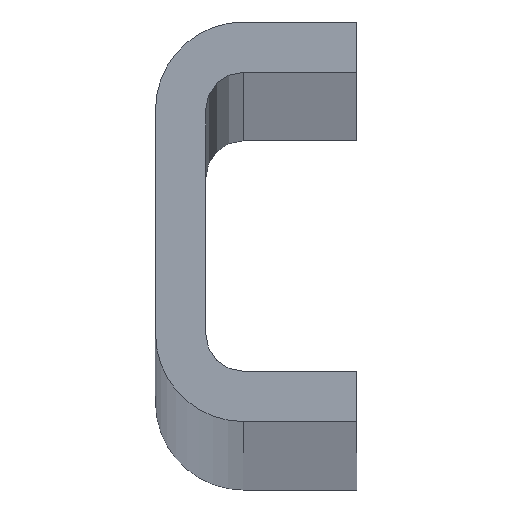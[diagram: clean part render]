
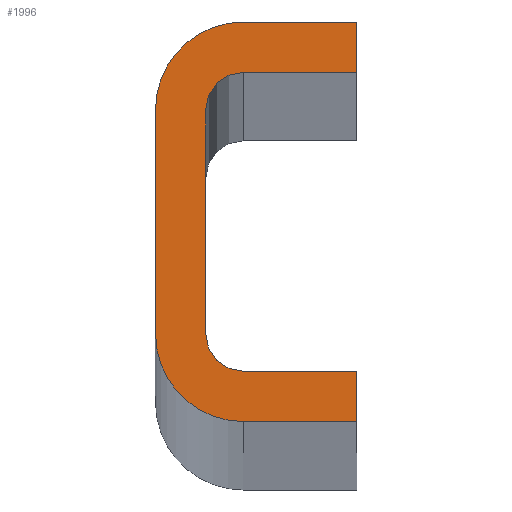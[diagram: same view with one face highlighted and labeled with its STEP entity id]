
A CAD part, top view. The second image highlights one B-rep face of the part: STEP entity #1996.
In plain terms, the highlighted planar face has unit normal (0, 0, 1).
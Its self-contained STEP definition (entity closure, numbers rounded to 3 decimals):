
#32 = ORIENTED_EDGE ( 'NONE', *, *, #6427, .T. ) ;
#149 = AXIS2_PLACEMENT_3D ( 'NONE', #531, #7314, #1587 ) ;
#171 = CIRCLE ( 'NONE', #4323, 3. ) ;
#269 = CARTESIAN_POINT ( 'NONE',  ( 16., 15.9, 0. ) ) ;
#343 = VERTEX_POINT ( 'NONE', #6045 ) ;
#383 = CIRCLE ( 'NONE', #1567, 7. ) ;
#487 = ORIENTED_EDGE ( 'NONE', *, *, #5860, .T. ) ;
#531 = CARTESIAN_POINT ( 'NONE',  ( 7., -8.9, 0. ) ) ;
#571 = LINE ( 'NONE', #2837, #3352 ) ;
#610 = CARTESIAN_POINT ( 'NONE',  ( 16., 11.9, 0. ) ) ;
#618 = DIRECTION ( 'NONE',  ( 0., 1., 0. ) ) ;
#771 = DIRECTION ( 'NONE',  ( -1., 0., 0. ) ) ;
#790 = LINE ( 'NONE', #1205, #5543 ) ;
#938 = ORIENTED_EDGE ( 'NONE', *, *, #2676, .T. ) ;
#1086 = CARTESIAN_POINT ( 'NONE',  ( 7., 11.9, 0. ) ) ;
#1094 = LINE ( 'NONE', #610, #4871 ) ;
#1205 = CARTESIAN_POINT ( 'NONE',  ( 0., 8.9, 0. ) ) ;
#1209 = VERTEX_POINT ( 'NONE', #4178 ) ;
#1314 = DIRECTION ( 'NONE',  ( -1., 0., 0. ) ) ;
#1359 = CARTESIAN_POINT ( 'NONE',  ( 16., 15.9, 0. ) ) ;
#1379 = ORIENTED_EDGE ( 'NONE', *, *, #5135, .T. ) ;
#1473 = EDGE_CURVE ( 'NONE', #2084, #1209, #2713, .T. ) ;
#1477 = AXIS2_PLACEMENT_3D ( 'NONE', #5232, #1790, #1314 ) ;
#1530 = VERTEX_POINT ( 'NONE', #6794 ) ;
#1532 = ORIENTED_EDGE ( 'NONE', *, *, #2444, .T. ) ;
#1567 = AXIS2_PLACEMENT_3D ( 'NONE', #3312, #2280, #2240 ) ;
#1587 = DIRECTION ( 'NONE',  ( 1., 0., 0. ) ) ;
#1671 = EDGE_CURVE ( 'NONE', #6622, #1863, #6378, .T. ) ;
#1741 = EDGE_CURVE ( 'NONE', #343, #3855, #790, .T. ) ;
#1762 = DIRECTION ( 'NONE',  ( 0., 0., -1. ) ) ;
#1790 = DIRECTION ( 'NONE',  ( 0., 0., -1. ) ) ;
#1835 = DIRECTION ( 'NONE',  ( 0., -1., 0. ) ) ;
#1863 = VERTEX_POINT ( 'NONE', #4799 ) ;
#1942 = VECTOR ( 'NONE', #4650, 1000. ) ;
#1996 = ADVANCED_FACE ( 'NONE', ( #3406 ), #5657, .T. ) ;
#2084 = VERTEX_POINT ( 'NONE', #5774 ) ;
#2230 = DIRECTION ( 'NONE',  ( 1., 0., 0. ) ) ;
#2240 = DIRECTION ( 'NONE',  ( 1., 0., 0. ) ) ;
#2248 = VECTOR ( 'NONE', #771, 1000. ) ;
#2280 = DIRECTION ( 'NONE',  ( 0., 0., 1. ) ) ;
#2426 = LINE ( 'NONE', #5274, #1942 ) ;
#2444 = EDGE_CURVE ( 'NONE', #3555, #7052, #5177, .T. ) ;
#2510 = CARTESIAN_POINT ( 'NONE',  ( 4., -8.9, 0. ) ) ;
#2577 = ORIENTED_EDGE ( 'NONE', *, *, #1473, .T. ) ;
#2676 = EDGE_CURVE ( 'NONE', #6576, #6515, #3586, .T. ) ;
#2713 = LINE ( 'NONE', #1086, #3416 ) ;
#2738 = DIRECTION ( 'NONE',  ( 1., 0., 0. ) ) ;
#2837 = CARTESIAN_POINT ( 'NONE',  ( 16., -15.9, 0. ) ) ;
#2852 = DIRECTION ( 'NONE',  ( 0., 0., 1. ) ) ;
#2901 = ORIENTED_EDGE ( 'NONE', *, *, #3034, .T. ) ;
#2960 = ORIENTED_EDGE ( 'NONE', *, *, #5416, .T. ) ;
#2998 = ORIENTED_EDGE ( 'NONE', *, *, #3858, .T. ) ;
#3034 = EDGE_CURVE ( 'NONE', #1209, #6622, #1094, .T. ) ;
#3036 = CARTESIAN_POINT ( 'NONE',  ( 4., 8.9, 0. ) ) ;
#3263 = CARTESIAN_POINT ( 'NONE',  ( 7., 8.9, 0. ) ) ;
#3312 = CARTESIAN_POINT ( 'NONE',  ( 7., 8.9, 0. ) ) ;
#3338 = CIRCLE ( 'NONE', #149, 7. ) ;
#3352 = VECTOR ( 'NONE', #6691, 1000. ) ;
#3406 = FACE_OUTER_BOUND ( 'NONE', #4062, .T. ) ;
#3416 = VECTOR ( 'NONE', #2230, 1000. ) ;
#3555 = VERTEX_POINT ( 'NONE', #2510 ) ;
#3577 = DIRECTION ( 'NONE',  ( -1., 0., 0. ) ) ;
#3586 = LINE ( 'NONE', #5842, #2248 ) ;
#3855 = VERTEX_POINT ( 'NONE', #6159 ) ;
#3856 = ORIENTED_EDGE ( 'NONE', *, *, #1741, .T. ) ;
#3858 = EDGE_CURVE ( 'NONE', #1863, #343, #383, .T. ) ;
#4062 = EDGE_LOOP ( 'NONE', ( #2577, #2901, #4591, #2998, #3856, #487, #32, #2960, #938, #6883, #1532, #1379 ) ) ;
#4092 = CARTESIAN_POINT ( 'NONE',  ( 16., -15.9, 0. ) ) ;
#4113 = CARTESIAN_POINT ( 'NONE',  ( 4., -8.9, 0. ) ) ;
#4178 = CARTESIAN_POINT ( 'NONE',  ( 16., 11.9, 0. ) ) ;
#4323 = AXIS2_PLACEMENT_3D ( 'NONE', #5794, #1762, #3577 ) ;
#4375 = VECTOR ( 'NONE', #4760, 1000. ) ;
#4415 = CIRCLE ( 'NONE', #1477, 3. ) ;
#4591 = ORIENTED_EDGE ( 'NONE', *, *, #1671, .T. ) ;
#4650 = DIRECTION ( 'NONE',  ( 1., 0., 0. ) ) ;
#4733 = AXIS2_PLACEMENT_3D ( 'NONE', #3263, #2852, #2738 ) ;
#4760 = DIRECTION ( 'NONE',  ( -1., 0., 0. ) ) ;
#4799 = CARTESIAN_POINT ( 'NONE',  ( 7., 15.9, 0. ) ) ;
#4834 = CARTESIAN_POINT ( 'NONE',  ( 16., -11.9, 0. ) ) ;
#4871 = VECTOR ( 'NONE', #5680, 1000. ) ;
#5042 = VERTEX_POINT ( 'NONE', #4092 ) ;
#5135 = EDGE_CURVE ( 'NONE', #7052, #2084, #4415, .T. ) ;
#5177 = LINE ( 'NONE', #4113, #6987 ) ;
#5232 = CARTESIAN_POINT ( 'NONE',  ( 7., 8.9, 0. ) ) ;
#5274 = CARTESIAN_POINT ( 'NONE',  ( 7., -15.9, 0. ) ) ;
#5416 = EDGE_CURVE ( 'NONE', #5042, #6576, #571, .T. ) ;
#5543 = VECTOR ( 'NONE', #1835, 1000. ) ;
#5657 = PLANE ( 'NONE',  #4733 ) ;
#5680 = DIRECTION ( 'NONE',  ( 0., 1., 0. ) ) ;
#5774 = CARTESIAN_POINT ( 'NONE',  ( 7., 11.9, 0. ) ) ;
#5794 = CARTESIAN_POINT ( 'NONE',  ( 7., -8.9, 0. ) ) ;
#5842 = CARTESIAN_POINT ( 'NONE',  ( 16., -11.9, 0. ) ) ;
#5860 = EDGE_CURVE ( 'NONE', #3855, #1530, #3338, .T. ) ;
#5953 = EDGE_CURVE ( 'NONE', #6515, #3555, #171, .T. ) ;
#6045 = CARTESIAN_POINT ( 'NONE',  ( 0., 8.9, 0. ) ) ;
#6159 = CARTESIAN_POINT ( 'NONE',  ( 0., -8.9, 0. ) ) ;
#6378 = LINE ( 'NONE', #1359, #4375 ) ;
#6427 = EDGE_CURVE ( 'NONE', #1530, #5042, #2426, .T. ) ;
#6515 = VERTEX_POINT ( 'NONE', #7160 ) ;
#6576 = VERTEX_POINT ( 'NONE', #4834 ) ;
#6622 = VERTEX_POINT ( 'NONE', #269 ) ;
#6691 = DIRECTION ( 'NONE',  ( 0., 1., 0. ) ) ;
#6794 = CARTESIAN_POINT ( 'NONE',  ( 7., -15.9, 0. ) ) ;
#6883 = ORIENTED_EDGE ( 'NONE', *, *, #5953, .T. ) ;
#6987 = VECTOR ( 'NONE', #618, 1000. ) ;
#7052 = VERTEX_POINT ( 'NONE', #3036 ) ;
#7160 = CARTESIAN_POINT ( 'NONE',  ( 7., -11.9, 0. ) ) ;
#7314 = DIRECTION ( 'NONE',  ( 0., 0., 1. ) ) ;
